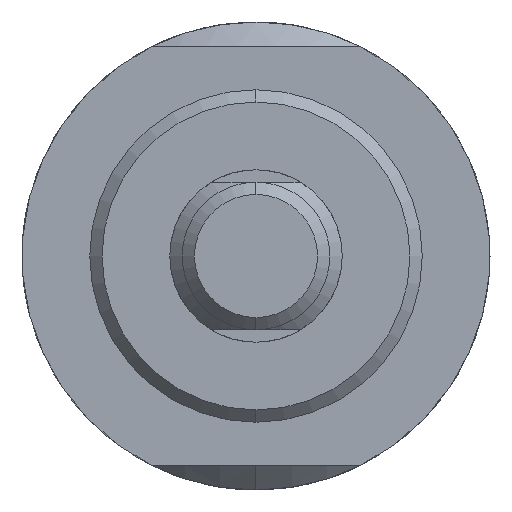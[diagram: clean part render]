
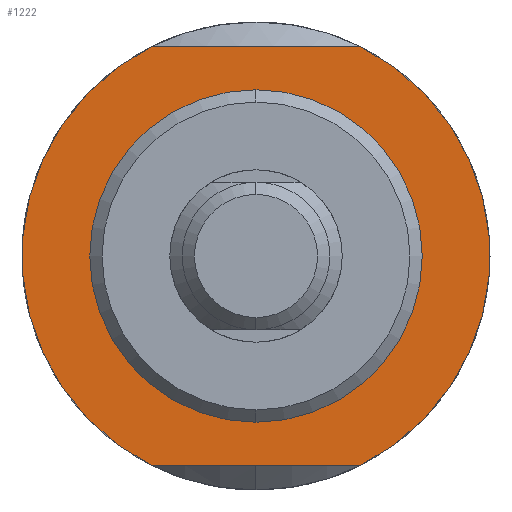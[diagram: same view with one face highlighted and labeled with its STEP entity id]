
A CAD part, left-side view. The second image highlights one B-rep face of the part: STEP entity #1222.
In plain terms, the highlighted planar face has unit normal (-1, 0, 0).
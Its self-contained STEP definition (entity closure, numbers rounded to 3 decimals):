
#25 = EDGE_CURVE ( 'NONE', #971, #982, #1624, .T. ) ;
#42 = AXIS2_PLACEMENT_3D ( 'NONE', #1207, #1101, #1943 ) ;
#73 = AXIS2_PLACEMENT_3D ( 'NONE', #970, #1614, #729 ) ;
#87 = CARTESIAN_POINT ( 'NONE',  ( 48., 0., 0. ) ) ;
#334 = VERTEX_POINT ( 'NONE', #1863 ) ;
#346 = VECTOR ( 'NONE', #1031, 1000. ) ;
#380 = ORIENTED_EDGE ( 'NONE', *, *, #382, .F. ) ;
#382 = EDGE_CURVE ( 'NONE', #880, #334, #698, .T. ) ;
#431 = AXIS2_PLACEMENT_3D ( 'NONE', #596, #1114, #1883 ) ;
#434 = FACE_OUTER_BOUND ( 'NONE', #640, .T. ) ;
#456 = CIRCLE ( 'NONE', #73, 13.5 ) ;
#466 = DIRECTION ( 'NONE',  ( -1., 0., 0. ) ) ;
#522 = CIRCLE ( 'NONE', #1085, 19. ) ;
#538 = FACE_BOUND ( 'NONE', #677, .T. ) ;
#552 = VECTOR ( 'NONE', #676, 1000. ) ;
#596 = CARTESIAN_POINT ( 'NONE',  ( 48., 0., -19. ) ) ;
#611 = CIRCLE ( 'NONE', #42, 19. ) ;
#640 = EDGE_LOOP ( 'NONE', ( #1882, #1902, #1990, #1660 ) ) ;
#648 = CARTESIAN_POINT ( 'NONE',  ( 48., 0., 13.5 ) ) ;
#676 = DIRECTION ( 'NONE',  ( 0., -1., 0. ) ) ;
#677 = EDGE_LOOP ( 'NONE', ( #380, #1358 ) ) ;
#698 = CIRCLE ( 'NONE', #986, 13.5 ) ;
#703 = VERTEX_POINT ( 'NONE', #1292 ) ;
#722 = EDGE_CURVE ( 'NONE', #334, #880, #456, .T. ) ;
#729 = DIRECTION ( 'NONE',  ( 0., 0., 1. ) ) ;
#778 = LINE ( 'NONE', #1341, #346 ) ;
#880 = VERTEX_POINT ( 'NONE', #648 ) ;
#970 = CARTESIAN_POINT ( 'NONE',  ( 48., 0., 0. ) ) ;
#971 = VERTEX_POINT ( 'NONE', #1208 ) ;
#982 = VERTEX_POINT ( 'NONE', #1467 ) ;
#986 = AXIS2_PLACEMENT_3D ( 'NONE', #1965, #1625, #1873 ) ;
#1017 = VERTEX_POINT ( 'NONE', #1501 ) ;
#1031 = DIRECTION ( 'NONE',  ( 0., 1., 0. ) ) ;
#1085 = AXIS2_PLACEMENT_3D ( 'NONE', #87, #466, #1496 ) ;
#1101 = DIRECTION ( 'NONE',  ( -1., 0., 0. ) ) ;
#1114 = DIRECTION ( 'NONE',  ( 1., 0., 0. ) ) ;
#1207 = CARTESIAN_POINT ( 'NONE',  ( 48., 0., 0. ) ) ;
#1208 = CARTESIAN_POINT ( 'NONE',  ( 48., 8.485, 17. ) ) ;
#1222 = ADVANCED_FACE ( 'NONE', ( #538, #434 ), #1472, .F. ) ;
#1292 = CARTESIAN_POINT ( 'NONE',  ( 48., -8.485, -17. ) ) ;
#1302 = CARTESIAN_POINT ( 'NONE',  ( 48., 15., 17. ) ) ;
#1341 = CARTESIAN_POINT ( 'NONE',  ( 48., 15., -17. ) ) ;
#1358 = ORIENTED_EDGE ( 'NONE', *, *, #722, .F. ) ;
#1385 = EDGE_CURVE ( 'NONE', #703, #1017, #778, .T. ) ;
#1467 = CARTESIAN_POINT ( 'NONE',  ( 48., -8.485, 17. ) ) ;
#1472 = PLANE ( 'NONE',  #431 ) ;
#1496 = DIRECTION ( 'NONE',  ( 0., 0., 1. ) ) ;
#1501 = CARTESIAN_POINT ( 'NONE',  ( 48., 8.485, -17. ) ) ;
#1614 = DIRECTION ( 'NONE',  ( -1., 0., 0. ) ) ;
#1624 = LINE ( 'NONE', #1302, #552 ) ;
#1625 = DIRECTION ( 'NONE',  ( -1., 0., 0. ) ) ;
#1639 = EDGE_CURVE ( 'NONE', #971, #1017, #522, .T. ) ;
#1660 = ORIENTED_EDGE ( 'NONE', *, *, #25, .F. ) ;
#1847 = EDGE_CURVE ( 'NONE', #703, #982, #611, .T. ) ;
#1863 = CARTESIAN_POINT ( 'NONE',  ( 48., 0., -13.5 ) ) ;
#1873 = DIRECTION ( 'NONE',  ( 0., 0., 1. ) ) ;
#1882 = ORIENTED_EDGE ( 'NONE', *, *, #1639, .T. ) ;
#1883 = DIRECTION ( 'NONE',  ( 0., 0., -1. ) ) ;
#1902 = ORIENTED_EDGE ( 'NONE', *, *, #1385, .F. ) ;
#1943 = DIRECTION ( 'NONE',  ( 0., 0., 1. ) ) ;
#1965 = CARTESIAN_POINT ( 'NONE',  ( 48., 0., 0. ) ) ;
#1990 = ORIENTED_EDGE ( 'NONE', *, *, #1847, .T. ) ;
